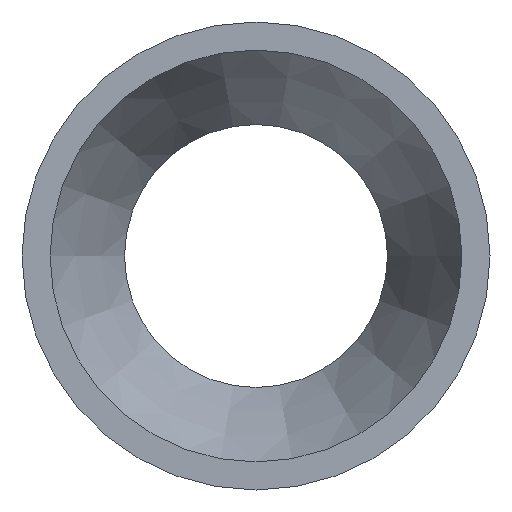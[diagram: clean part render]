
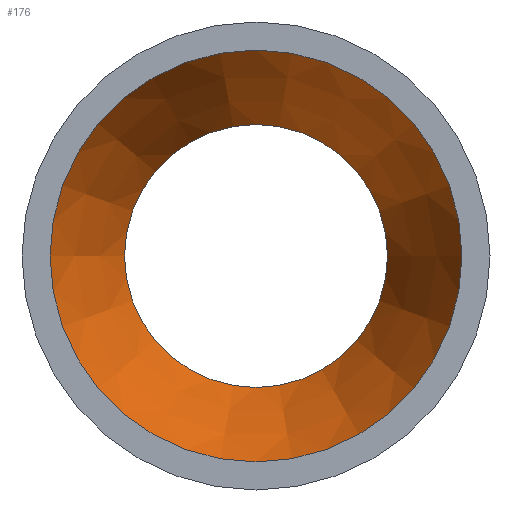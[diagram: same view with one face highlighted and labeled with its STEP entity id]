
A CAD part, left-side view. The second image highlights one B-rep face of the part: STEP entity #176.
In plain terms, the highlighted conical face has half-angle 23.114 degrees and reference radius 39.65 mm.
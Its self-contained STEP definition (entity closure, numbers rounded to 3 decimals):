
#128=CARTESIAN_POINT('',(134.65,30.9,0.));
#129=VERTEX_POINT('',#128);
#136=CARTESIAN_POINT('',(134.65,0.,0.));
#137=DIRECTION('',(1.,0.,0.));
#138=DIRECTION('',(0.,1.,0.));
#139=AXIS2_PLACEMENT_3D('',#136,#137,#138);
#140=CIRCLE('',#139,30.9);
#141=EDGE_CURVE('',#129,#129,#140,.T.);
#152=ORIENTED_EDGE('',*,*,#141,.T.);
#153=CARTESIAN_POINT('',(93.65,48.4,0.));
#154=VERTEX_POINT('',#153);
#155=CARTESIAN_POINT('',(114.15,39.65,0.));
#156=DIRECTION('',(0.92,-0.393,0.));
#157=VECTOR('',#156,39.65);
#158=LINE('',#155,#157);
#159=EDGE_CURVE('',#154,#129,#158,.T.);
#160=ORIENTED_EDGE('',*,*,#159,.F.);
#161=CARTESIAN_POINT('',(93.65,0.,0.));
#162=DIRECTION('',(1.,0.,0.));
#163=DIRECTION('',(0.,1.,0.));
#164=AXIS2_PLACEMENT_3D('',#161,#162,#163);
#165=CIRCLE('',#164,48.4);
#166=EDGE_CURVE('',#154,#154,#165,.T.);
#167=ORIENTED_EDGE('',*,*,#166,.F.);
#168=ORIENTED_EDGE('',*,*,#159,.T.);
#169=EDGE_LOOP('',(#152,#160,#167,#168));
#170=FACE_OUTER_BOUND('',#169,.T.);
#171=CARTESIAN_POINT('',(114.15,0.,0.));
#172=DIRECTION('',(-1.,0.,0.));
#173=DIRECTION('',(0.,1.,0.));
#174=AXIS2_PLACEMENT_3D('',#171,#172,#173);
#175=CONICAL_SURFACE('',#174,39.65,0.403);
#176=ADVANCED_FACE('',(#170),#175,.F.);
